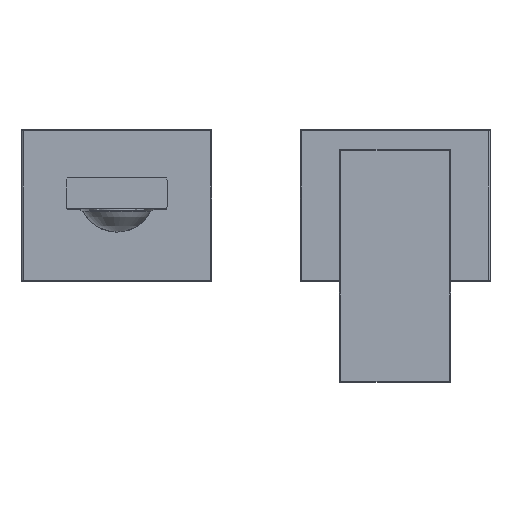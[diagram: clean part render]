
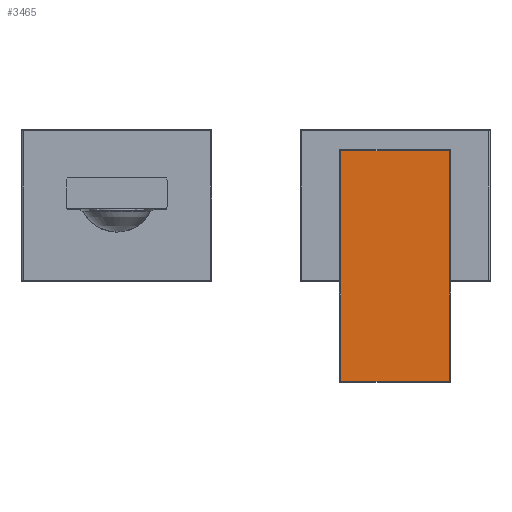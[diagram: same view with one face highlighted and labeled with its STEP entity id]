
A CAD part, top view. The second image highlights one B-rep face of the part: STEP entity #3465.
In plain terms, the highlighted planar face has unit normal (0, 0, 1).
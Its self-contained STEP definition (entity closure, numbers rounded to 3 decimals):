
#450=DIRECTION('',(1.,0.,0.));
#451=VECTOR('',#450,43.);
#452=CARTESIAN_POINT('',(-23.5,-69.5,107.1));
#453=LINE('',#452,#451);
#454=DIRECTION('',(0.,-1.,0.));
#455=VECTOR('',#454,91.);
#456=CARTESIAN_POINT('',(-23.5,21.5,107.1));
#457=LINE('',#456,#455);
#458=DIRECTION('',(-1.,0.,0.));
#459=VECTOR('',#458,43.);
#460=CARTESIAN_POINT('',(19.5,21.5,107.1));
#461=LINE('',#460,#459);
#462=DIRECTION('',(0.,1.,0.));
#463=VECTOR('',#462,91.);
#464=CARTESIAN_POINT('',(19.5,-69.5,107.1));
#465=LINE('',#464,#463);
#2675=CARTESIAN_POINT('',(-23.5,-69.5,107.1));
#2676=CARTESIAN_POINT('',(19.5,-69.5,107.1));
#2677=VERTEX_POINT('',#2675);
#2678=VERTEX_POINT('',#2676);
#2683=CARTESIAN_POINT('',(19.5,21.5,107.1));
#2684=VERTEX_POINT('',#2683);
#2689=CARTESIAN_POINT('',(-23.5,21.5,107.1));
#2690=VERTEX_POINT('',#2689);
#3451=CARTESIAN_POINT('',(-2.,0.,107.1));
#3452=DIRECTION('',(0.,0.,1.));
#3453=DIRECTION('',(1.,0.,0.));
#3454=AXIS2_PLACEMENT_3D('',#3451,#3452,#3453);
#3455=PLANE('',#3454);
#3457=ORIENTED_EDGE('',*,*,#3456,.F.);
#3459=ORIENTED_EDGE('',*,*,#3458,.F.);
#3460=ORIENTED_EDGE('',*,*,#3441,.F.);
#3462=ORIENTED_EDGE('',*,*,#3461,.F.);
#3463=EDGE_LOOP('',(#3457,#3459,#3460,#3462));
#3464=FACE_OUTER_BOUND('',#3463,.F.);
#3465=ADVANCED_FACE('',(#3464),#3455,.T.);
#3441=EDGE_CURVE('',#2684,#2690,#461,.T.);
#3456=EDGE_CURVE('',#2677,#2678,#453,.T.);
#3458=EDGE_CURVE('',#2690,#2677,#457,.T.);
#3461=EDGE_CURVE('',#2678,#2684,#465,.T.);
